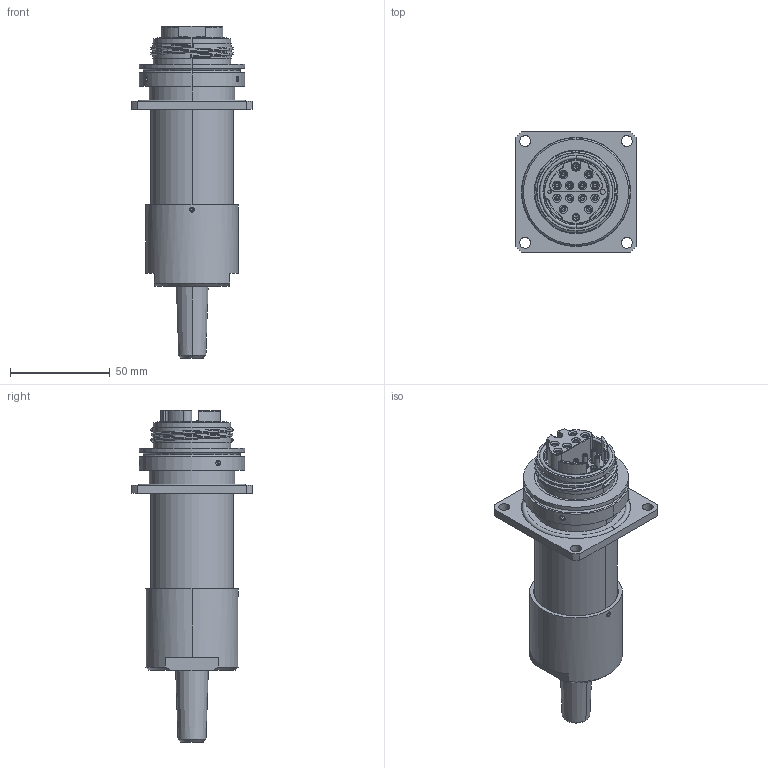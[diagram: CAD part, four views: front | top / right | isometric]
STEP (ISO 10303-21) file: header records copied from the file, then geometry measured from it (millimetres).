
FILE_DESCRIPTION (( 'STEP AP214' ), '1' );
FILE_NAME ('QFOCA-RIXX-12CH-X-SXXX.STEP', '2025-06-09T20:09:59', ( '' ), ( '' ), 'SwSTEP 2.0', 'SolidWorks 2024', '' );
FILE_SCHEMA (( 'AUTOMOTIVE_DESIGN' ));
Length unit declared in the file: inch
Products named in the file (1): QFOCA-RIXX-12CH-X-SXXX
Bounding box: 60.2 x 60.2 x 166.01 mm (x, y, z)
Volume: 194144.8 mm3; surface area: 45829 mm2
Topology: 10 solids, 30 shells, 765 faces, 1787 edges, 1099 vertices
Faces by surface type: cylinder 277, cone 214, plane 174, torus 90, bspline 10
Entity records: 24040 total; most frequent: CARTESIAN_POINT 6018, DIRECTION 4040, ORIENTED_EDGE 3554, EDGE_CURVE 1777, AXIS2_PLACEMENT_3D 1657, VERTEX_POINT 1099, CIRCLE 901, EDGE_LOOP 846
